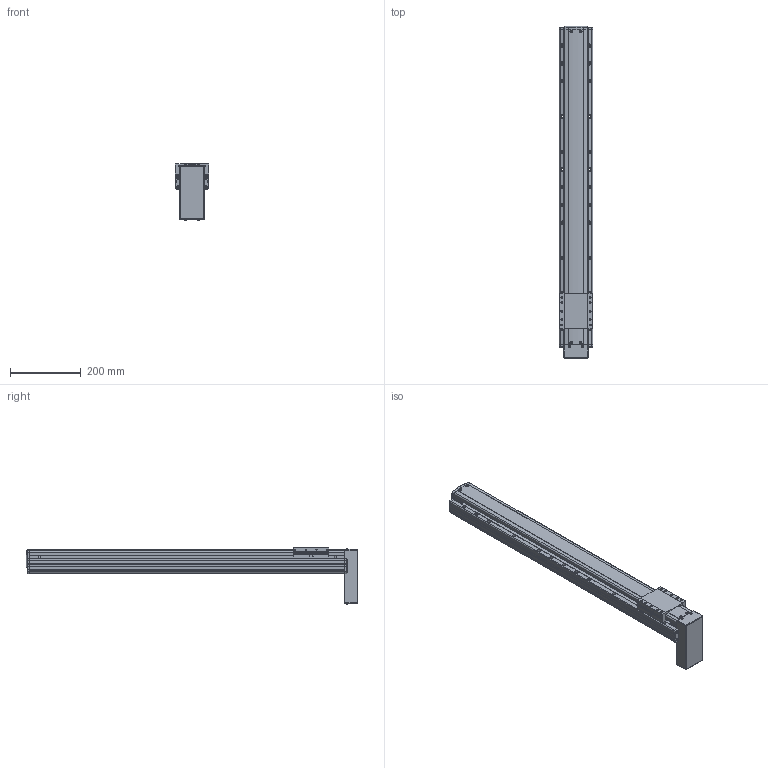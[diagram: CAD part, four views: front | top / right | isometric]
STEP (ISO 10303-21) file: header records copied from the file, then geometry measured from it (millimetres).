
FILE_DESCRIPTION(('STEP AP214'),'1');
FILE_NAME('Z:/Web/3D/PSA95/STP/PSA95-700 (3D)/PSA95ㅁㅁ-700PB.stp','2014-07-03T00:44:57',(' '),(' '),'Spatial InterOp 3D',' ',' ');
FILE_SCHEMA(('automotive_design'));
Length unit declared in the file: millimetre
Products named in the file (29): BASE; RRCV; 스크루 : Round - M4.0 x 10.0; 너트 : Square - M10.0 x 220.7419; RR1500; FRCV-090; 스크루 : Round - M4.0 x 6.0; SLBL-PA90; MTPL COVER; 스크루 : Round - M3.0 x 6.0; 1; 2
Bounding box: 95.1 x 937.5 x 159.57 mm (x, y, z)
Volume: 5221941.3 mm3; surface area: 527758.7 mm2
Topology: 29 solids, 29 shells, 2093 faces, 5585 edges, 3551 vertices
Faces by surface type: plane 1138, cylinder 645, cone 222, sphere 50, bspline 24, torus 14
Entity records: 84092 total; most frequent: CARTESIAN_POINT 14345, DIRECTION 11084, ORIENTED_EDGE 10882, EDGE_CURVE 5441, AXIS2_PLACEMENT_3D 3724, LINE 3636, VECTOR 3636, VERTEX_POINT 3551
